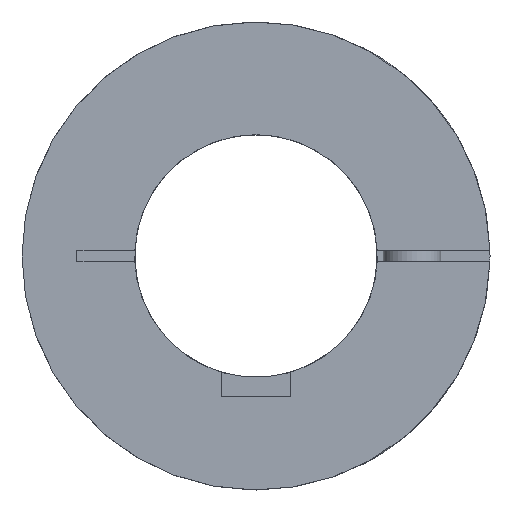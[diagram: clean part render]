
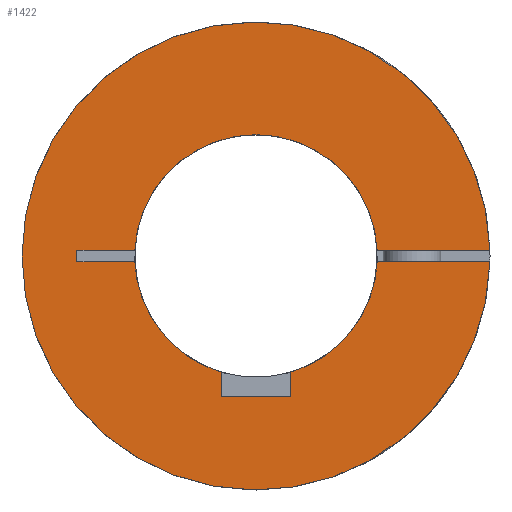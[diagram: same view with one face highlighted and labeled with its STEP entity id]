
A CAD part, left-side view. The second image highlights one B-rep face of the part: STEP entity #1422.
In plain terms, the highlighted planar face has unit normal (-1, 0, 0).
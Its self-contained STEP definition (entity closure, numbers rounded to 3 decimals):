
#54=PLANE('',#1557);
#113=LINE('',#2246,#220);
#116=LINE('',#2252,#223);
#117=LINE('',#2254,#224);
#127=LINE('',#2273,#234);
#133=LINE('',#2291,#240);
#135=LINE('',#2295,#242);
#136=LINE('',#2296,#243);
#137=LINE('',#2298,#244);
#220=VECTOR('',#1781,1.);
#223=VECTOR('',#1786,1.);
#224=VECTOR('',#1789,1.);
#234=VECTOR('',#1807,1000.);
#240=VECTOR('',#1823,1000.);
#242=VECTOR('',#1827,1000.);
#243=VECTOR('',#1828,1000.);
#244=VECTOR('',#1829,1000.);
#345=FACE_OUTER_BOUND('',#426,.T.);
#426=EDGE_LOOP('',(#1059,#1060,#1061,#1062,#1063,#1064,#1065,#1066,#1067,
#1068,#1069,#1070));
#539=CIRCLE('',#1539,21.);
#541=CIRCLE('',#1541,21.);
#542=CIRCLE('',#1543,21.);
#547=CIRCLE('',#1558,40.5);
#640=VERTEX_POINT('',#2219);
#641=VERTEX_POINT('',#2221);
#644=VERTEX_POINT('',#2227);
#645=VERTEX_POINT('',#2229);
#646=VERTEX_POINT('',#2233);
#647=VERTEX_POINT('',#2234);
#651=VERTEX_POINT('',#2244);
#653=VERTEX_POINT('',#2250);
#658=VERTEX_POINT('',#2272);
#665=VERTEX_POINT('',#2290);
#666=VERTEX_POINT('',#2294);
#667=VERTEX_POINT('',#2297);
#795=EDGE_CURVE('',#641,#640,#539,.T.);
#799=EDGE_CURVE('',#645,#644,#541,.T.);
#801=EDGE_CURVE('',#646,#647,#542,.T.);
#807=EDGE_CURVE('',#644,#651,#113,.T.);
#810=EDGE_CURVE('',#651,#653,#116,.T.);
#811=EDGE_CURVE('',#653,#641,#117,.T.);
#821=EDGE_CURVE('',#645,#658,#127,.T.);
#830=EDGE_CURVE('',#665,#646,#133,.T.);
#832=EDGE_CURVE('',#666,#640,#135,.T.);
#833=EDGE_CURVE('',#665,#666,#136,.T.);
#834=EDGE_CURVE('',#647,#667,#137,.T.);
#835=EDGE_CURVE('',#667,#658,#547,.T.);
#1059=ORIENTED_EDGE('',*,*,#799,.T.);
#1060=ORIENTED_EDGE('',*,*,#807,.T.);
#1061=ORIENTED_EDGE('',*,*,#810,.T.);
#1062=ORIENTED_EDGE('',*,*,#811,.T.);
#1063=ORIENTED_EDGE('',*,*,#795,.T.);
#1064=ORIENTED_EDGE('',*,*,#832,.F.);
#1065=ORIENTED_EDGE('',*,*,#833,.F.);
#1066=ORIENTED_EDGE('',*,*,#830,.T.);
#1067=ORIENTED_EDGE('',*,*,#801,.T.);
#1068=ORIENTED_EDGE('',*,*,#834,.T.);
#1069=ORIENTED_EDGE('',*,*,#835,.T.);
#1070=ORIENTED_EDGE('',*,*,#821,.F.);
#1422=ADVANCED_FACE('',(#345),#54,.T.);
#1539=AXIS2_PLACEMENT_3D('',#2222,#1760,#1761);
#1541=AXIS2_PLACEMENT_3D('',#2230,#1766,#1767);
#1543=AXIS2_PLACEMENT_3D('',#2235,#1771,#1772);
#1557=AXIS2_PLACEMENT_3D('',#2293,#1825,#1826);
#1558=AXIS2_PLACEMENT_3D('',#2299,#1830,#1831);
#1760=DIRECTION('center_axis',(1.,0.,0.));
#1761=DIRECTION('ref_axis',(0.,0.,-1.));
#1766=DIRECTION('center_axis',(1.,0.,0.));
#1767=DIRECTION('ref_axis',(0.,0.,-1.));
#1771=DIRECTION('center_axis',(1.,0.,0.));
#1772=DIRECTION('ref_axis',(0.,0.,-1.));
#1781=DIRECTION('',(0.,0.,-1.));
#1786=DIRECTION('',(0.,1.,0.));
#1789=DIRECTION('',(0.,0.,1.));
#1807=DIRECTION('',(0.,-1.,0.));
#1823=DIRECTION('',(0.,-1.,0.));
#1825=DIRECTION('center_axis',(-1.,0.,0.));
#1826=DIRECTION('ref_axis',(0.,1.,0.));
#1827=DIRECTION('',(0.,-1.,0.));
#1828=DIRECTION('',(0.,0.,-1.));
#1829=DIRECTION('',(0.,-1.,0.));
#1830=DIRECTION('center_axis',(-1.,0.,0.));
#1831=DIRECTION('ref_axis',(0.,1.,0.));
#2219=CARTESIAN_POINT('',(0.,20.976,-1.));
#2221=CARTESIAN_POINT('',(0.,6.,-20.125));
#2222=CARTESIAN_POINT('Origin',(0.,0.,0.));
#2227=CARTESIAN_POINT('',(0.,-6.,-20.125));
#2229=CARTESIAN_POINT('',(0.,-20.976,-1.));
#2230=CARTESIAN_POINT('Origin',(0.,0.,0.));
#2233=CARTESIAN_POINT('',(0.,20.976,1.));
#2234=CARTESIAN_POINT('',(0.,-20.976,1.));
#2235=CARTESIAN_POINT('Origin',(0.,0.,0.));
#2244=CARTESIAN_POINT('',(0.,-6.,-24.3));
#2246=CARTESIAN_POINT('',(0.,-6.,-9.575));
#2250=CARTESIAN_POINT('',(0.,6.,-24.3));
#2252=CARTESIAN_POINT('',(0.,0.,-24.3));
#2254=CARTESIAN_POINT('',(0.,6.,-9.575));
#2272=CARTESIAN_POINT('',(0.,-40.488,-1.));
#2273=CARTESIAN_POINT('',(0.,31.,-1.));
#2290=CARTESIAN_POINT('',(0.,31.,1.));
#2291=CARTESIAN_POINT('',(0.,31.,1.));
#2293=CARTESIAN_POINT('Origin',(0.,0.,-7.));
#2294=CARTESIAN_POINT('',(0.,31.,-1.));
#2295=CARTESIAN_POINT('',(0.,31.,-1.));
#2296=CARTESIAN_POINT('',(0.,31.,1.));
#2297=CARTESIAN_POINT('',(0.,-40.488,1.));
#2298=CARTESIAN_POINT('',(0.,31.,1.));
#2299=CARTESIAN_POINT('Origin',(0.,0.,0.));
